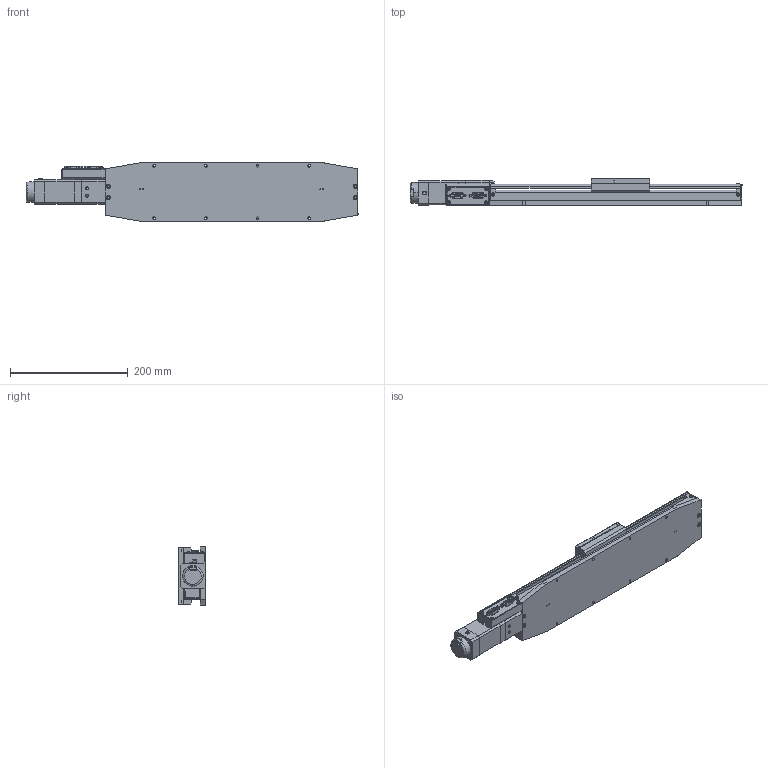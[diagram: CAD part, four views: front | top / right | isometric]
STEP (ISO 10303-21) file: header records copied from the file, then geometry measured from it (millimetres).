
FILE_DESCRIPTION (( 'STEP AP214' ), '1' );
FILE_NAME ('L3500.300-STC_v2_20180822.STEP', '2018-08-22T11:27:11', ( '' ), ( '' ), 'SwSTEP 2.0', 'SolidWorks 2017', '' );
FILE_SCHEMA (( 'AUTOMOTIVE_DESIGN' ));
Length unit declared in the file: millimetre
Products named in the file (1): L3500.300-STC_v2_20180822
Bounding box: 563.25 x 45.32 x 99.06 mm (x, y, z)
Volume: 994517 mm3; surface area: 397350.2 mm2
Topology: 59 solids, 60 shells, 2991 faces, 7531 edges, 4794 vertices
Faces by surface type: plane 1489, cylinder 1162, cone 233, bspline 77, torus 30
Entity records: 93063 total; most frequent: CARTESIAN_POINT 19576, DIRECTION 15419, ORIENTED_EDGE 14766, EDGE_CURVE 7383, AXIS2_PLACEMENT_3D 5402, VERTEX_POINT 4794, LINE 4615, VECTOR 4615
